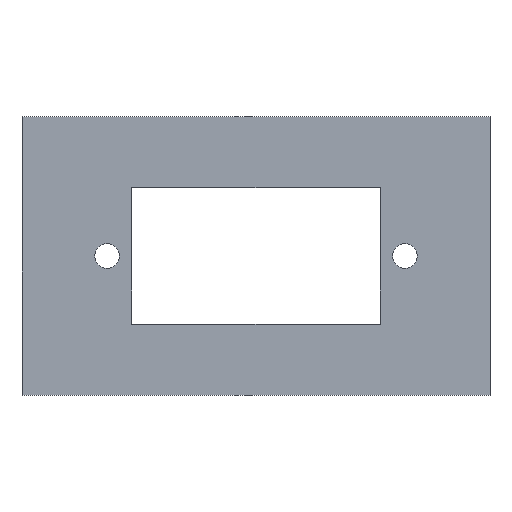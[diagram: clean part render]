
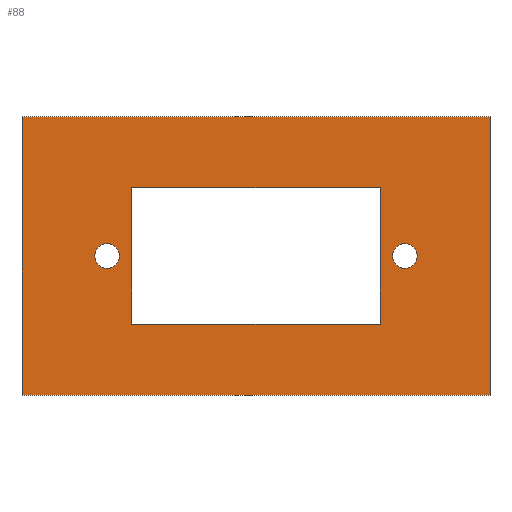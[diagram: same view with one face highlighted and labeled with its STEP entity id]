
A CAD part, top view. The second image highlights one B-rep face of the part: STEP entity #88.
In plain terms, the highlighted planar face has unit normal (0, 0, 1).
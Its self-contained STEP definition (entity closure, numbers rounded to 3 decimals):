
#24 = VERTEX_POINT('',#25);
#25 = CARTESIAN_POINT('',(0.,0.,4.));
#40 = VERTEX_POINT('',#41);
#41 = CARTESIAN_POINT('',(0.,26.2,4.));
#47 = EDGE_CURVE('',#24,#40,#48,.T.);
#48 = LINE('',#49,#50);
#49 = CARTESIAN_POINT('',(0.,0.,4.));
#50 = VECTOR('',#51,1.);
#51 = DIRECTION('',(-0.,1.,0.));
#70 = EDGE_CURVE('',#24,#71,#73,.T.);
#71 = VERTEX_POINT('',#72);
#72 = CARTESIAN_POINT('',(44.,0.,4.));
#73 = LINE('',#74,#75);
#74 = CARTESIAN_POINT('',(0.,0.,4.));
#75 = VECTOR('',#76,1.);
#76 = DIRECTION('',(1.,0.,-0.));
#88 = ADVANCED_FACE('',(#89,#107,#118,#152),#163,.T.);
#89 = FACE_BOUND('',#90,.T.);
#90 = EDGE_LOOP('',(#91,#92,#93,#101));
#91 = ORIENTED_EDGE('',*,*,#47,.F.);
#92 = ORIENTED_EDGE('',*,*,#70,.T.);
#93 = ORIENTED_EDGE('',*,*,#94,.T.);
#94 = EDGE_CURVE('',#71,#95,#97,.T.);
#95 = VERTEX_POINT('',#96);
#96 = CARTESIAN_POINT('',(44.,26.2,4.));
#97 = LINE('',#98,#99);
#98 = CARTESIAN_POINT('',(44.,0.,4.));
#99 = VECTOR('',#100,1.);
#100 = DIRECTION('',(-0.,1.,0.));
#101 = ORIENTED_EDGE('',*,*,#102,.F.);
#102 = EDGE_CURVE('',#40,#95,#103,.T.);
#103 = LINE('',#104,#105);
#104 = CARTESIAN_POINT('',(0.,26.2,4.));
#105 = VECTOR('',#106,1.);
#106 = DIRECTION('',(1.,0.,-0.));
#107 = FACE_BOUND('',#108,.T.);
#108 = EDGE_LOOP('',(#109));
#109 = ORIENTED_EDGE('',*,*,#110,.F.);
#110 = EDGE_CURVE('',#111,#111,#113,.T.);
#111 = VERTEX_POINT('',#112);
#112 = CARTESIAN_POINT('',(9.15,13.1,4.));
#113 = CIRCLE('',#114,1.15);
#114 = AXIS2_PLACEMENT_3D('',#115,#116,#117);
#115 = CARTESIAN_POINT('',(8.,13.1,4.));
#116 = DIRECTION('',(0.,0.,1.));
#117 = DIRECTION('',(1.,0.,-0.));
#118 = FACE_BOUND('',#119,.T.);
#119 = EDGE_LOOP('',(#120,#130,#138,#146));
#120 = ORIENTED_EDGE('',*,*,#121,.T.);
#121 = EDGE_CURVE('',#122,#124,#126,.T.);
#122 = VERTEX_POINT('',#123);
#123 = CARTESIAN_POINT('',(33.7,6.7,4.));
#124 = VERTEX_POINT('',#125);
#125 = CARTESIAN_POINT('',(10.3,6.7,4.));
#126 = LINE('',#127,#128);
#127 = CARTESIAN_POINT('',(5.15,6.7,4.));
#128 = VECTOR('',#129,1.);
#129 = DIRECTION('',(-1.,-0.,0.));
#130 = ORIENTED_EDGE('',*,*,#131,.T.);
#131 = EDGE_CURVE('',#124,#132,#134,.T.);
#132 = VERTEX_POINT('',#133);
#133 = CARTESIAN_POINT('',(10.3,19.5,4.));
#134 = LINE('',#135,#136);
#135 = CARTESIAN_POINT('',(10.3,3.35,4.));
#136 = VECTOR('',#137,1.);
#137 = DIRECTION('',(-0.,1.,0.));
#138 = ORIENTED_EDGE('',*,*,#139,.F.);
#139 = EDGE_CURVE('',#140,#132,#142,.T.);
#140 = VERTEX_POINT('',#141);
#141 = CARTESIAN_POINT('',(33.7,19.5,4.));
#142 = LINE('',#143,#144);
#143 = CARTESIAN_POINT('',(5.15,19.5,4.));
#144 = VECTOR('',#145,1.);
#145 = DIRECTION('',(-1.,-0.,0.));
#146 = ORIENTED_EDGE('',*,*,#147,.F.);
#147 = EDGE_CURVE('',#122,#140,#148,.T.);
#148 = LINE('',#149,#150);
#149 = CARTESIAN_POINT('',(33.7,3.35,4.));
#150 = VECTOR('',#151,1.);
#151 = DIRECTION('',(-0.,1.,0.));
#152 = FACE_BOUND('',#153,.T.);
#153 = EDGE_LOOP('',(#154));
#154 = ORIENTED_EDGE('',*,*,#155,.F.);
#155 = EDGE_CURVE('',#156,#156,#158,.T.);
#156 = VERTEX_POINT('',#157);
#157 = CARTESIAN_POINT('',(37.15,13.1,4.));
#158 = CIRCLE('',#159,1.15);
#159 = AXIS2_PLACEMENT_3D('',#160,#161,#162);
#160 = CARTESIAN_POINT('',(36.,13.1,4.));
#161 = DIRECTION('',(0.,0.,1.));
#162 = DIRECTION('',(1.,0.,-0.));
#163 = PLANE('',#164);
#164 = AXIS2_PLACEMENT_3D('',#165,#166,#167);
#165 = CARTESIAN_POINT('',(0.,0.,4.));
#166 = DIRECTION('',(0.,0.,1.));
#167 = DIRECTION('',(1.,0.,-0.));
